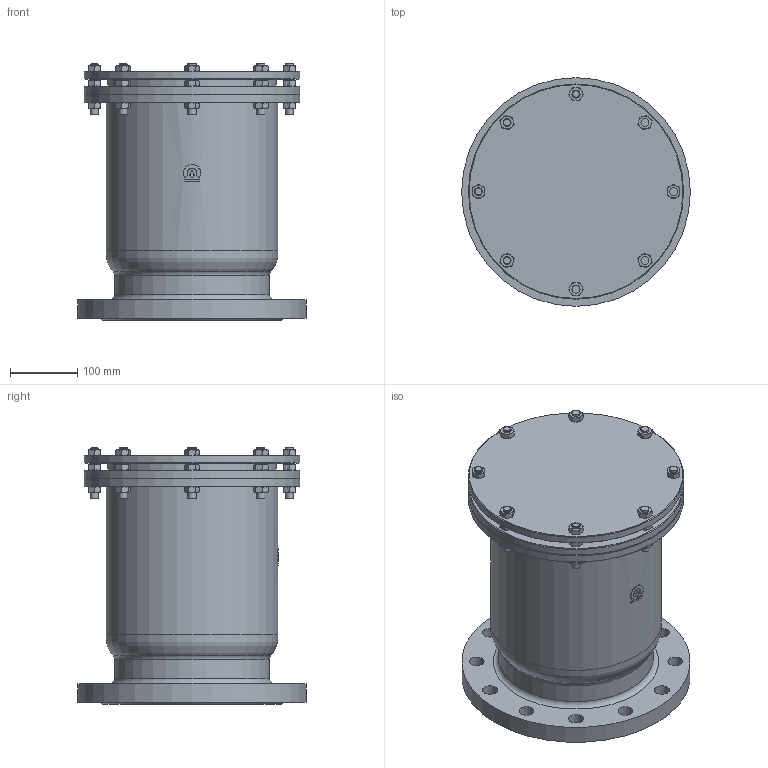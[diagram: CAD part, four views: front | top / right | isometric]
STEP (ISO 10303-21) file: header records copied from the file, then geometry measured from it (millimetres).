
FILE_DESCRIPTION(('STEP AP203'), '1');
FILE_NAME('Òèï A10F - Âîçäóõîîòâîä÷èê îäíîêàìåðíûé DN200', '', ('UNSPECIFIED'), ('UNSPECIFIED'), 'ASCON STEP Converter 1.6', 'ASCON Math Kernel', '');
FILE_SCHEMA(('CONFIG_CONTROL_DESIGN'));
Length unit declared in the file: millimetre
Products named in the file (1): Тип A10F
Bounding box: 340 x 340 x 381 mm (x, y, z)
Volume: 15198889.6 mm3; surface area: 754121.7 mm2
Topology: 1 solids, 1 shells, 556 faces, 1209 edges, 706 vertices
Faces by surface type: cone 297, plane 204, cylinder 52, torus 3
Full cylindrical faces by diameter (mm): 12 x24, 22 x12, 200 x1, 230 x1, 250 x1, 255 x1, 318 x1, 320 x3, 340 x1
Entity records: 31499 total; most frequent: CARTESIAN_POINT 15970, ORIENTED_EDGE 2304, DIRECTION 2081, EDGE_CURVE 1152, AXIS2_PLACEMENT_3D 957, VERTEX_POINT 706, EDGE_LOOP 704, FACE_BOUND 590
